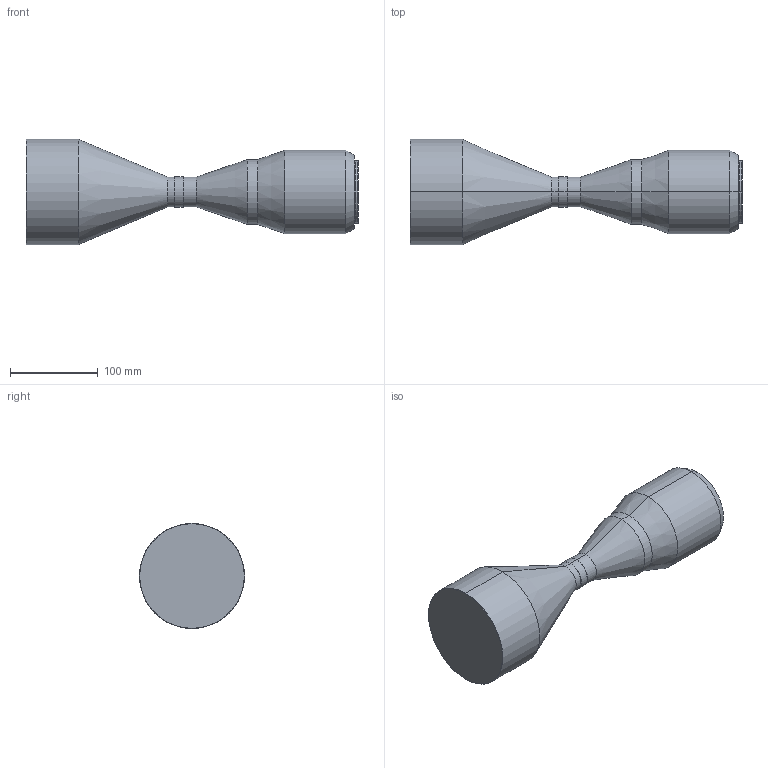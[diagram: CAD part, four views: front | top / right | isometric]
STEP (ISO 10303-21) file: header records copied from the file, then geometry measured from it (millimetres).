
FILE_DESCRIPTION (( 'STEP AP203' ), '1' );
FILE_NAME ('DTCM16K-90-AL STEPﾍｼ.STEP', '2019-11-12T10:01:00', ( 'Windows ﾓﾃｻｧ' ), ( '' ), 'SwSTEP 2.0', 'SolidWorks 2017', '' );
FILE_SCHEMA (( 'CONFIG_CONTROL_DESIGN' ));
Length unit declared in the file: millimetre
Products named in the file (1): DTCM16K-90-AL STEPͼ
Bounding box: 379 x 120 x 120 mm (x, y, z)
Volume: 2168610 mm3; surface area: 116645 mm2
Topology: 1 solids, 1 shells, 34 faces, 66 edges, 38 vertices
Faces by surface type: cylinder 16, cone 12, plane 6
Entity records: 941 total; most frequent: DIRECTION 174, CARTESIAN_POINT 139, ORIENTED_EDGE 132, AXIS2_PLACEMENT_3D 73, EDGE_CURVE 66, EDGE_LOOP 38, VERTEX_POINT 38, CIRCLE 38
